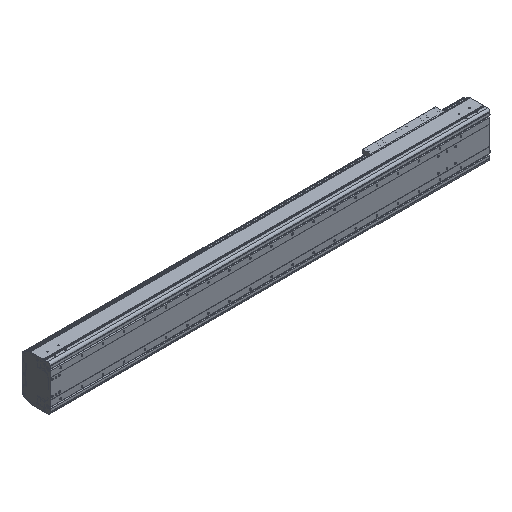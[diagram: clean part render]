
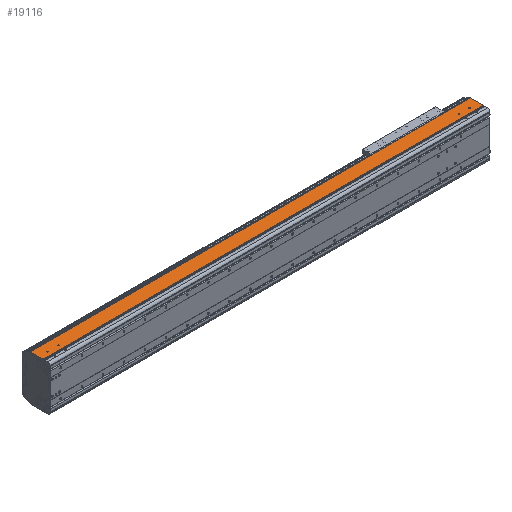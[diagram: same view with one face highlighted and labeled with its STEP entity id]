
A CAD part, isometric view. The second image highlights one B-rep face of the part: STEP entity #19116.
In plain terms, the highlighted planar face has unit normal (0, 0, 1).
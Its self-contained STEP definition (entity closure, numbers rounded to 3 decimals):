
#1915=DIRECTION('',(1.,0.,0.));
#1916=VECTOR('',#1915,2.);
#1917=CARTESIAN_POINT('',(0.,34.65,107.));
#1918=LINE('',#1917,#1916);
#1923=CARTESIAN_POINT('',(-42.,54.,107.));
#1924=DIRECTION('',(0.,0.,-1.));
#1925=DIRECTION('',(1.,0.,0.));
#1926=AXIS2_PLACEMENT_3D('',#1923,#1924,#1925);
#1928=CARTESIAN_POINT('',(-42.,54.,107.));
#1929=DIRECTION('',(0.,0.,-1.));
#1930=DIRECTION('',(-1.,0.,0.));
#1931=AXIS2_PLACEMENT_3D('',#1928,#1929,#1930);
#1933=CARTESIAN_POINT('',(-92.,54.,107.));
#1934=DIRECTION('',(0.,0.,-1.));
#1935=DIRECTION('',(1.,0.,0.));
#1936=AXIS2_PLACEMENT_3D('',#1933,#1934,#1935);
#1938=CARTESIAN_POINT('',(-92.,54.,107.));
#1939=DIRECTION('',(0.,0.,-1.));
#1940=DIRECTION('',(-1.,0.,0.));
#1941=AXIS2_PLACEMENT_3D('',#1938,#1939,#1940);
#1943=CARTESIAN_POINT('',(-2044.,54.,107.));
#1944=DIRECTION('',(0.,0.,-1.));
#1945=DIRECTION('',(1.,0.,0.));
#1946=AXIS2_PLACEMENT_3D('',#1943,#1944,#1945);
#1948=CARTESIAN_POINT('',(-2044.,54.,107.));
#1949=DIRECTION('',(0.,0.,-1.));
#1950=DIRECTION('',(-1.,0.,0.));
#1951=AXIS2_PLACEMENT_3D('',#1948,#1949,#1950);
#1953=CARTESIAN_POINT('',(-1994.,54.,107.));
#1954=DIRECTION('',(0.,0.,-1.));
#1955=DIRECTION('',(1.,0.,0.));
#1956=AXIS2_PLACEMENT_3D('',#1953,#1954,#1955);
#1958=CARTESIAN_POINT('',(-1994.,54.,107.));
#1959=DIRECTION('',(0.,0.,-1.));
#1960=DIRECTION('',(-1.,0.,0.));
#1961=AXIS2_PLACEMENT_3D('',#1958,#1959,#1960);
#1963=DIRECTION('',(0.,-1.,0.));
#1964=VECTOR('',#1963,2.55);
#1965=CARTESIAN_POINT('',(-2084.,34.65,107.));
#1966=LINE('',#1965,#1964);
#1967=DIRECTION('',(0.,-1.,0.));
#1968=VECTOR('',#1967,58.85);
#1969=CARTESIAN_POINT('',(-2086.,93.5,107.));
#1970=LINE('',#1969,#1968);
#1971=DIRECTION('',(0.,1.,0.));
#1972=VECTOR('',#1971,58.85);
#1973=CARTESIAN_POINT('',(2.,34.65,107.));
#1974=LINE('',#1973,#1972);
#1975=DIRECTION('',(0.,1.,0.));
#1976=VECTOR('',#1975,2.55);
#1977=CARTESIAN_POINT('',(0.,32.1,107.));
#1978=LINE('',#1977,#1976);
#2087=DIRECTION('',(1.,0.,0.));
#2088=VECTOR('',#2087,2.);
#2089=CARTESIAN_POINT('',(-2086.,34.65,107.));
#2090=LINE('',#2089,#2088);
#2099=DIRECTION('',(-1.,0.,0.));
#2100=VECTOR('',#2099,2088.);
#2101=CARTESIAN_POINT('',(2.,93.5,107.));
#2102=LINE('',#2101,#2100);
#11945=DIRECTION('',(1.,0.,0.));
#11946=VECTOR('',#11945,2084.);
#11947=CARTESIAN_POINT('',(-2084.,32.1,107.));
#11948=LINE('',#11947,#11946);
#13163=CARTESIAN_POINT('',(-2086.,34.65,107.));
#13164=VERTEX_POINT('',#13163);
#13165=CARTESIAN_POINT('',(-2086.,93.5,107.));
#13166=VERTEX_POINT('',#13165);
#13387=CARTESIAN_POINT('',(-2084.,32.1,107.));
#13388=VERTEX_POINT('',#13387);
#13459=CARTESIAN_POINT('',(0.,32.1,107.));
#13460=VERTEX_POINT('',#13459);
#14001=CARTESIAN_POINT('',(-39.5,54.,107.));
#14002=CARTESIAN_POINT('',(-44.5,54.,107.));
#14003=VERTEX_POINT('',#14001);
#14004=VERTEX_POINT('',#14002);
#14005=CARTESIAN_POINT('',(-89.5,54.,107.));
#14006=CARTESIAN_POINT('',(-94.5,54.,107.));
#14007=VERTEX_POINT('',#14005);
#14008=VERTEX_POINT('',#14006);
#14009=CARTESIAN_POINT('',(-2041.5,54.,107.));
#14010=CARTESIAN_POINT('',(-2046.5,54.,107.));
#14011=VERTEX_POINT('',#14009);
#14012=VERTEX_POINT('',#14010);
#14013=CARTESIAN_POINT('',(-1991.5,54.,107.));
#14014=CARTESIAN_POINT('',(-1996.5,54.,107.));
#14015=VERTEX_POINT('',#14013);
#14016=VERTEX_POINT('',#14014);
#15302=CARTESIAN_POINT('',(2.,34.65,107.));
#15303=VERTEX_POINT('',#15302);
#15304=CARTESIAN_POINT('',(2.,93.5,107.));
#15305=VERTEX_POINT('',#15304);
#15524=CARTESIAN_POINT('',(0.,34.65,107.));
#15525=VERTEX_POINT('',#15524);
#15836=CARTESIAN_POINT('',(-2084.,34.65,107.));
#15837=VERTEX_POINT('',#15836);
#19074=CARTESIAN_POINT('',(-1042.,62.8,107.));
#19075=DIRECTION('',(0.,0.,1.));
#19076=DIRECTION('',(0.,-1.,0.));
#19077=AXIS2_PLACEMENT_3D('',#19074,#19075,#19076);
#19078=PLANE('',#19077);
#19079=ORIENTED_EDGE('',*,*,#16589,.F.);
#19081=ORIENTED_EDGE('',*,*,#19080,.F.);
#19082=ORIENTED_EDGE('',*,*,#17672,.F.);
#19084=ORIENTED_EDGE('',*,*,#19083,.F.);
#19085=ORIENTED_EDGE('',*,*,#18872,.F.);
#19086=ORIENTED_EDGE('',*,*,#19067,.F.);
#19087=ORIENTED_EDGE('',*,*,#17197,.F.);
#19089=ORIENTED_EDGE('',*,*,#19088,.F.);
#19090=EDGE_LOOP('',(#19079,#19081,#19082,#19084,#19085,#19086,#19087,#19089));
#19091=FACE_OUTER_BOUND('',#19090,.F.);
#19093=ORIENTED_EDGE('',*,*,#19092,.F.);
#19095=ORIENTED_EDGE('',*,*,#19094,.F.);
#19096=EDGE_LOOP('',(#19093,#19095));
#19097=FACE_BOUND('',#19096,.F.);
#19099=ORIENTED_EDGE('',*,*,#19098,.F.);
#19101=ORIENTED_EDGE('',*,*,#19100,.F.);
#19102=EDGE_LOOP('',(#19099,#19101));
#19103=FACE_BOUND('',#19102,.F.);
#19105=ORIENTED_EDGE('',*,*,#19104,.F.);
#19107=ORIENTED_EDGE('',*,*,#19106,.F.);
#19108=EDGE_LOOP('',(#19105,#19107));
#19109=FACE_BOUND('',#19108,.F.);
#19111=ORIENTED_EDGE('',*,*,#19110,.F.);
#19113=ORIENTED_EDGE('',*,*,#19112,.F.);
#19114=EDGE_LOOP('',(#19111,#19113));
#19115=FACE_BOUND('',#19114,.F.);
#19116=ADVANCED_FACE('',(#19091,#19097,#19103,#19109,#19115),#19078,.T.);
#1927=CIRCLE('',#1926,2.5);
#1932=CIRCLE('',#1931,2.5);
#1937=CIRCLE('',#1936,2.5);
#1942=CIRCLE('',#1941,2.5);
#1947=CIRCLE('',#1946,2.5);
#1952=CIRCLE('',#1951,2.5);
#1957=CIRCLE('',#1956,2.5);
#1962=CIRCLE('',#1961,2.5);
#16589=EDGE_CURVE('',#15837,#13388,#1966,.T.);
#17197=EDGE_CURVE('',#13460,#15525,#1978,.T.);
#17672=EDGE_CURVE('',#13166,#13164,#1970,.T.);
#18872=EDGE_CURVE('',#15303,#15305,#1974,.T.);
#19067=EDGE_CURVE('',#15525,#15303,#1918,.T.);
#19080=EDGE_CURVE('',#13164,#15837,#2090,.T.);
#19083=EDGE_CURVE('',#15305,#13166,#2102,.T.);
#19088=EDGE_CURVE('',#13388,#13460,#11948,.T.);
#19092=EDGE_CURVE('',#14007,#14008,#1937,.T.);
#19094=EDGE_CURVE('',#14008,#14007,#1942,.T.);
#19098=EDGE_CURVE('',#14011,#14012,#1947,.T.);
#19100=EDGE_CURVE('',#14012,#14011,#1952,.T.);
#19104=EDGE_CURVE('',#14015,#14016,#1957,.T.);
#19106=EDGE_CURVE('',#14016,#14015,#1962,.T.);
#19110=EDGE_CURVE('',#14003,#14004,#1927,.T.);
#19112=EDGE_CURVE('',#14004,#14003,#1932,.T.);
